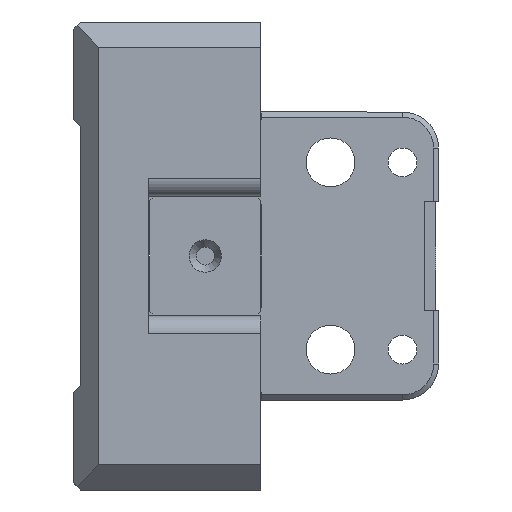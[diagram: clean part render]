
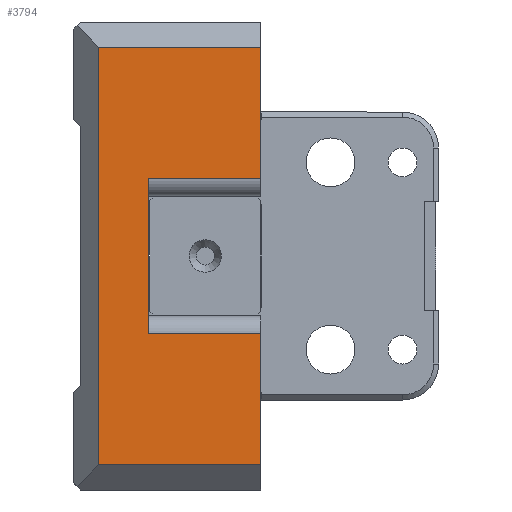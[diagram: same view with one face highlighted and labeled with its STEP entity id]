
A CAD part, left-side view. The second image highlights one B-rep face of the part: STEP entity #3794.
In plain terms, the highlighted planar face has unit normal (-1, 0, 0).
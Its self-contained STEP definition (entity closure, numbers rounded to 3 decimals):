
#7 = CARTESIAN_POINT ( 'NONE',  ( -150., -10.4, -10.8 ) ) ;
#10 = VECTOR ( 'NONE', #2411, 1000. ) ;
#55 = ORIENTED_EDGE ( 'NONE', *, *, #1322, .T. ) ;
#230 = EDGE_CURVE ( 'NONE', #2785, #4213, #2631, .T. ) ;
#331 = LINE ( 'NONE', #1646, #1688 ) ;
#333 = VERTEX_POINT ( 'NONE', #1112 ) ;
#359 = CARTESIAN_POINT ( 'NONE',  ( -150., -26., -29. ) ) ;
#384 = VECTOR ( 'NONE', #4866, 1000. ) ;
#491 = LINE ( 'NONE', #4728, #4813 ) ;
#498 = CARTESIAN_POINT ( 'NONE',  ( -150., -26., 29. ) ) ;
#665 = DIRECTION ( 'NONE',  ( 0., 0., -1. ) ) ;
#679 = ORIENTED_EDGE ( 'NONE', *, *, #1867, .T. ) ;
#811 = CARTESIAN_POINT ( 'NONE',  ( -150., -26., -32.5 ) ) ;
#859 = ORIENTED_EDGE ( 'NONE', *, *, #230, .T. ) ;
#907 = LINE ( 'NONE', #3227, #5106 ) ;
#929 = VERTEX_POINT ( 'NONE', #3517 ) ;
#1112 = CARTESIAN_POINT ( 'NONE',  ( -150., -10.4, -10.8 ) ) ;
#1128 = CARTESIAN_POINT ( 'NONE',  ( -150., -10.4, 10.8 ) ) ;
#1217 = DIRECTION ( 'NONE',  ( -1., 0., 0. ) ) ;
#1223 = LINE ( 'NONE', #7, #384 ) ;
#1251 = ORIENTED_EDGE ( 'NONE', *, *, #3793, .F. ) ;
#1322 = EDGE_CURVE ( 'NONE', #2259, #2785, #331, .T. ) ;
#1526 = CARTESIAN_POINT ( 'NONE',  ( -150., -3.5, -29. ) ) ;
#1591 = CARTESIAN_POINT ( 'NONE',  ( -150., -26., 29. ) ) ;
#1646 = CARTESIAN_POINT ( 'NONE',  ( -150., -26., -32.5 ) ) ;
#1669 = EDGE_CURVE ( 'NONE', #4671, #2259, #907, .T. ) ;
#1688 = VECTOR ( 'NONE', #2460, 1000. ) ;
#1746 = CARTESIAN_POINT ( 'NONE',  ( -150., -26., -32.5 ) ) ;
#1796 = VECTOR ( 'NONE', #2148, 1000. ) ;
#1853 = ORIENTED_EDGE ( 'NONE', *, *, #1669, .T. ) ;
#1867 = EDGE_CURVE ( 'NONE', #929, #4987, #5044, .T. ) ;
#1961 = LINE ( 'NONE', #5034, #3055 ) ;
#2104 = VECTOR ( 'NONE', #4835, 1000. ) ;
#2148 = DIRECTION ( 'NONE',  ( 0., 0., 1. ) ) ;
#2243 = AXIS2_PLACEMENT_3D ( 'NONE', #811, #1217, #4079 ) ;
#2259 = VERTEX_POINT ( 'NONE', #3154 ) ;
#2399 = EDGE_CURVE ( 'NONE', #4477, #929, #3175, .T. ) ;
#2411 = DIRECTION ( 'NONE',  ( 0., 1., 0. ) ) ;
#2460 = DIRECTION ( 'NONE',  ( 0., 0., 1. ) ) ;
#2586 = DIRECTION ( 'NONE',  ( 0., 0., -1. ) ) ;
#2631 = LINE ( 'NONE', #1591, #10 ) ;
#2645 = ORIENTED_EDGE ( 'NONE', *, *, #2399, .T. ) ;
#2785 = VERTEX_POINT ( 'NONE', #498 ) ;
#2863 = EDGE_CURVE ( 'NONE', #4671, #333, #1961, .T. ) ;
#2984 = EDGE_CURVE ( 'NONE', #4213, #4477, #491, .T. ) ;
#3055 = VECTOR ( 'NONE', #2586, 1000. ) ;
#3154 = CARTESIAN_POINT ( 'NONE',  ( -150., -26., 10.8 ) ) ;
#3175 = LINE ( 'NONE', #359, #2104 ) ;
#3227 = CARTESIAN_POINT ( 'NONE',  ( -150., -10.4, 10.8 ) ) ;
#3260 = PLANE ( 'NONE',  #2243 ) ;
#3275 = FACE_OUTER_BOUND ( 'NONE', #3462, .T. ) ;
#3462 = EDGE_LOOP ( 'NONE', ( #4718, #2645, #679, #1251, #3896, #1853, #55, #859 ) ) ;
#3517 = CARTESIAN_POINT ( 'NONE',  ( -150., -26., -29. ) ) ;
#3793 = EDGE_CURVE ( 'NONE', #333, #4987, #1223, .T. ) ;
#3794 = ADVANCED_FACE ( 'NONE', ( #3275 ), #3260, .T. ) ;
#3806 = CARTESIAN_POINT ( 'NONE',  ( -150., -26., -10.8 ) ) ;
#3896 = ORIENTED_EDGE ( 'NONE', *, *, #2863, .F. ) ;
#4079 = DIRECTION ( 'NONE',  ( 0., 0., 1. ) ) ;
#4094 = CARTESIAN_POINT ( 'NONE',  ( -150., -3.5, 29. ) ) ;
#4213 = VERTEX_POINT ( 'NONE', #4094 ) ;
#4451 = DIRECTION ( 'NONE',  ( 0., -1., 0. ) ) ;
#4477 = VERTEX_POINT ( 'NONE', #1526 ) ;
#4671 = VERTEX_POINT ( 'NONE', #1128 ) ;
#4718 = ORIENTED_EDGE ( 'NONE', *, *, #2984, .T. ) ;
#4728 = CARTESIAN_POINT ( 'NONE',  ( -150., -3.5, -32.5 ) ) ;
#4813 = VECTOR ( 'NONE', #665, 1000. ) ;
#4835 = DIRECTION ( 'NONE',  ( 0., -1., 0. ) ) ;
#4866 = DIRECTION ( 'NONE',  ( 0., -1., 0. ) ) ;
#4987 = VERTEX_POINT ( 'NONE', #3806 ) ;
#5034 = CARTESIAN_POINT ( 'NONE',  ( -150., -10.4, -10.8 ) ) ;
#5044 = LINE ( 'NONE', #1746, #1796 ) ;
#5106 = VECTOR ( 'NONE', #4451, 1000. ) ;
